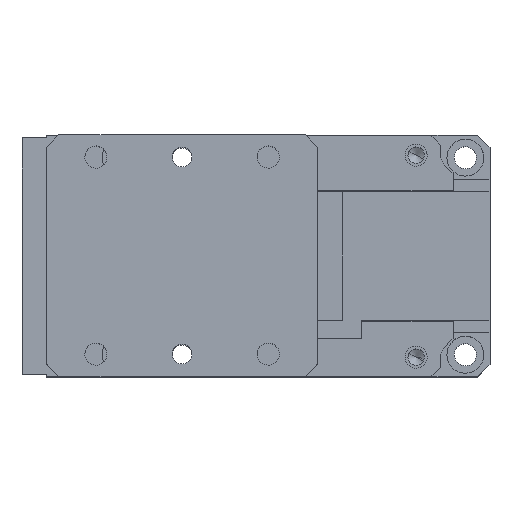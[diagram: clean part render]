
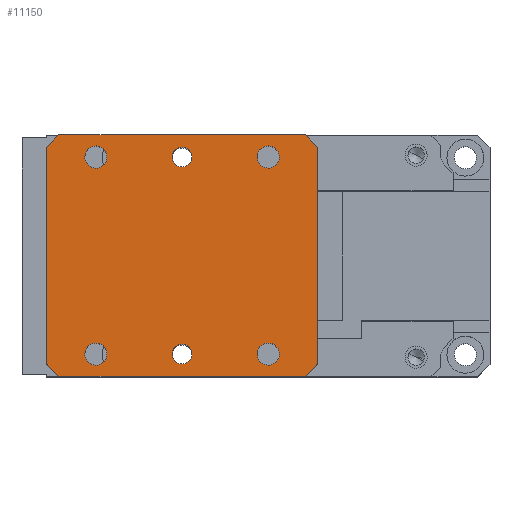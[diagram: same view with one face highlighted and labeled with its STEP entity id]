
A CAD part, top view. The second image highlights one B-rep face of the part: STEP entity #11150.
In plain terms, the highlighted planar face has unit normal (0, 0, 1).
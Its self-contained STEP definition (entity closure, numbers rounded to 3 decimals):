
#10564=CARTESIAN_POINT('Vertex',(5.,49.,200.)) ;
#10567=CARTESIAN_POINT('Line Origine',(55.,49.,200.)) ;
#10571=CARTESIAN_POINT('Vertex',(105.,49.,200.)) ;
#10687=CARTESIAN_POINT('Vertex',(0.,44.,200.)) ;
#10690=CARTESIAN_POINT('Line Origine',(0.,44.,200.)) ;
#10830=CARTESIAN_POINT('Vertex',(105.,-49.,200.)) ;
#10835=CARTESIAN_POINT('Line Origine',(55.,-49.,200.)) ;
#10839=CARTESIAN_POINT('Vertex',(5.,-49.,200.)) ;
#10953=CARTESIAN_POINT('Line Origine',(0.,-44.,200.)) ;
#10957=CARTESIAN_POINT('Vertex',(0.,-44.,200.)) ;
#11003=CARTESIAN_POINT('Axis2P3D Location',(150.006,0.,200.)) ;
#11008=CARTESIAN_POINT('Line Origine',(107.5,-46.5,200.)) ;
#11012=CARTESIAN_POINT('Vertex',(110.,-44.,200.)) ;
#11015=CARTESIAN_POINT('Line Origine',(110.,0.,200.)) ;
#11019=CARTESIAN_POINT('Vertex',(110.,44.,200.)) ;
#11022=CARTESIAN_POINT('Line Origine',(107.5,46.5,200.)) ;
#11027=CARTESIAN_POINT('Line Origine',(0.,0.,200.)) ;
#11042=CARTESIAN_POINT('Axis2P3D Location',(20.,-40.,200.)) ;
#11046=CARTESIAN_POINT('Vertex',(17.843,-36.051,200.)) ;
#11048=CARTESIAN_POINT('Vertex',(22.157,-43.949,200.)) ;
#11051=CARTESIAN_POINT('Axis2P3D Location',(20.,-40.,200.)) ;
#11060=CARTESIAN_POINT('Axis2P3D Location',(90.,-40.,200.)) ;
#11064=CARTESIAN_POINT('Vertex',(87.843,-36.051,200.)) ;
#11066=CARTESIAN_POINT('Vertex',(92.157,-43.949,200.)) ;
#11069=CARTESIAN_POINT('Axis2P3D Location',(90.,-40.,200.)) ;
#11078=CARTESIAN_POINT('Axis2P3D Location',(90.,40.,200.)) ;
#11082=CARTESIAN_POINT('Vertex',(87.843,43.949,200.)) ;
#11084=CARTESIAN_POINT('Vertex',(92.157,36.051,200.)) ;
#11087=CARTESIAN_POINT('Axis2P3D Location',(90.,40.,200.)) ;
#11096=CARTESIAN_POINT('Axis2P3D Location',(20.,40.,200.)) ;
#11100=CARTESIAN_POINT('Vertex',(17.843,43.949,200.)) ;
#11102=CARTESIAN_POINT('Vertex',(22.157,36.051,200.)) ;
#11105=CARTESIAN_POINT('Axis2P3D Location',(20.,40.,200.)) ;
#11114=CARTESIAN_POINT('Axis2P3D Location',(55.,-40.,200.)) ;
#11118=CARTESIAN_POINT('Vertex',(53.082,-36.49,200.)) ;
#11120=CARTESIAN_POINT('Vertex',(56.918,-43.51,200.)) ;
#11123=CARTESIAN_POINT('Axis2P3D Location',(55.,-40.,200.)) ;
#11132=CARTESIAN_POINT('Axis2P3D Location',(55.,40.,200.)) ;
#11136=CARTESIAN_POINT('Vertex',(53.082,43.51,200.)) ;
#11138=CARTESIAN_POINT('Vertex',(56.918,36.49,200.)) ;
#11141=CARTESIAN_POINT('Axis2P3D Location',(55.,40.,200.)) ;
#10569=VECTOR('Line Direction',#10568,1.) ;
#10692=VECTOR('Line Direction',#10691,1.) ;
#10837=VECTOR('Line Direction',#10836,1.) ;
#10955=VECTOR('Line Direction',#10954,1.) ;
#11010=VECTOR('Line Direction',#11009,1.) ;
#11017=VECTOR('Line Direction',#11016,1.) ;
#11024=VECTOR('Line Direction',#11023,1.) ;
#11029=VECTOR('Line Direction',#11028,1.) ;
#10568=DIRECTION('Vector Direction',(-1.,0.,0.)) ;
#10691=DIRECTION('Vector Direction',(0.707,0.707,0.)) ;
#10836=DIRECTION('Vector Direction',(-1.,0.,0.)) ;
#10954=DIRECTION('Vector Direction',(0.707,-0.707,0.)) ;
#11004=DIRECTION('Axis2P3D Direction',(0.,0.,1.)) ;
#11005=DIRECTION('Axis2P3D XDirection',(-1.,0.,0.)) ;
#11009=DIRECTION('Vector Direction',(-0.707,-0.707,0.)) ;
#11016=DIRECTION('Vector Direction',(0.,1.,0.)) ;
#11023=DIRECTION('Vector Direction',(-0.707,0.707,0.)) ;
#11028=DIRECTION('Vector Direction',(0.,-1.,0.)) ;
#11043=DIRECTION('Axis2P3D Direction',(0.,0.,1.)) ;
#11052=DIRECTION('Axis2P3D Direction',(0.,0.,1.)) ;
#11061=DIRECTION('Axis2P3D Direction',(0.,0.,1.)) ;
#11070=DIRECTION('Axis2P3D Direction',(0.,0.,1.)) ;
#11079=DIRECTION('Axis2P3D Direction',(0.,0.,1.)) ;
#11088=DIRECTION('Axis2P3D Direction',(0.,0.,1.)) ;
#11097=DIRECTION('Axis2P3D Direction',(0.,0.,1.)) ;
#11106=DIRECTION('Axis2P3D Direction',(0.,0.,1.)) ;
#11115=DIRECTION('Axis2P3D Direction',(0.,0.,1.)) ;
#11124=DIRECTION('Axis2P3D Direction',(0.,0.,1.)) ;
#11133=DIRECTION('Axis2P3D Direction',(0.,0.,1.)) ;
#11142=DIRECTION('Axis2P3D Direction',(0.,0.,1.)) ;
#11006=AXIS2_PLACEMENT_3D('Plane Axis2P3D',#11003,#11004,#11005) ;
#11044=AXIS2_PLACEMENT_3D('Circle Axis2P3D',#11042,#11043,$) ;
#11053=AXIS2_PLACEMENT_3D('Circle Axis2P3D',#11051,#11052,$) ;
#11062=AXIS2_PLACEMENT_3D('Circle Axis2P3D',#11060,#11061,$) ;
#11071=AXIS2_PLACEMENT_3D('Circle Axis2P3D',#11069,#11070,$) ;
#11080=AXIS2_PLACEMENT_3D('Circle Axis2P3D',#11078,#11079,$) ;
#11089=AXIS2_PLACEMENT_3D('Circle Axis2P3D',#11087,#11088,$) ;
#11098=AXIS2_PLACEMENT_3D('Circle Axis2P3D',#11096,#11097,$) ;
#11107=AXIS2_PLACEMENT_3D('Circle Axis2P3D',#11105,#11106,$) ;
#11116=AXIS2_PLACEMENT_3D('Circle Axis2P3D',#11114,#11115,$) ;
#11125=AXIS2_PLACEMENT_3D('Circle Axis2P3D',#11123,#11124,$) ;
#11134=AXIS2_PLACEMENT_3D('Circle Axis2P3D',#11132,#11133,$) ;
#11143=AXIS2_PLACEMENT_3D('Circle Axis2P3D',#11141,#11142,$) ;
#10570=LINE('Line',#10567,#10569) ;
#10693=LINE('Line',#10690,#10692) ;
#10838=LINE('Line',#10835,#10837) ;
#10956=LINE('Line',#10953,#10955) ;
#11011=LINE('Line',#11008,#11010) ;
#11018=LINE('Line',#11015,#11017) ;
#11025=LINE('Line',#11022,#11024) ;
#11030=LINE('Line',#11027,#11029) ;
#11045=CIRCLE('generated circle',#11044,4.5) ;
#11054=CIRCLE('generated circle',#11053,4.5) ;
#11063=CIRCLE('generated circle',#11062,4.5) ;
#11072=CIRCLE('generated circle',#11071,4.5) ;
#11081=CIRCLE('generated circle',#11080,4.5) ;
#11090=CIRCLE('generated circle',#11089,4.5) ;
#11099=CIRCLE('generated circle',#11098,4.5) ;
#11108=CIRCLE('generated circle',#11107,4.5) ;
#11117=CIRCLE('generated circle',#11116,4.) ;
#11126=CIRCLE('generated circle',#11125,4.) ;
#11135=CIRCLE('generated circle',#11134,4.) ;
#11144=CIRCLE('generated circle',#11143,4.) ;
#11007=PLANE('',#11006) ;
#11059=FACE_BOUND('',#11056,.T.) ;
#11077=FACE_BOUND('',#11074,.T.) ;
#11095=FACE_BOUND('',#11092,.T.) ;
#11113=FACE_BOUND('',#11110,.T.) ;
#11131=FACE_BOUND('',#11128,.T.) ;
#11149=FACE_BOUND('',#11146,.T.) ;
#10573=EDGE_CURVE('',#10572,#10565,#10570,.T.) ;
#10694=EDGE_CURVE('',#10688,#10565,#10693,.T.) ;
#10841=EDGE_CURVE('',#10831,#10840,#10838,.T.) ;
#10959=EDGE_CURVE('',#10958,#10840,#10956,.T.) ;
#11014=EDGE_CURVE('',#11013,#10831,#11011,.T.) ;
#11021=EDGE_CURVE('',#11020,#11013,#11018,.F.) ;
#11026=EDGE_CURVE('',#11020,#10572,#11025,.T.) ;
#11031=EDGE_CURVE('',#10958,#10688,#11030,.F.) ;
#11050=EDGE_CURVE('',#11047,#11049,#11045,.T.) ;
#11055=EDGE_CURVE('',#11049,#11047,#11054,.T.) ;
#11068=EDGE_CURVE('',#11065,#11067,#11063,.T.) ;
#11073=EDGE_CURVE('',#11067,#11065,#11072,.T.) ;
#11086=EDGE_CURVE('',#11083,#11085,#11081,.T.) ;
#11091=EDGE_CURVE('',#11085,#11083,#11090,.T.) ;
#11104=EDGE_CURVE('',#11101,#11103,#11099,.T.) ;
#11109=EDGE_CURVE('',#11103,#11101,#11108,.T.) ;
#11122=EDGE_CURVE('',#11119,#11121,#11117,.T.) ;
#11127=EDGE_CURVE('',#11121,#11119,#11126,.T.) ;
#11140=EDGE_CURVE('',#11137,#11139,#11135,.T.) ;
#11145=EDGE_CURVE('',#11139,#11137,#11144,.T.) ;
#11032=EDGE_LOOP('',(#11033,#11034,#11035,#11036,#11037,#11038,#11039,#11040)) ;
#11056=EDGE_LOOP('',(#11057,#11058)) ;
#11074=EDGE_LOOP('',(#11075,#11076)) ;
#11092=EDGE_LOOP('',(#11093,#11094)) ;
#11110=EDGE_LOOP('',(#11111,#11112)) ;
#11128=EDGE_LOOP('',(#11129,#11130)) ;
#11146=EDGE_LOOP('',(#11147,#11148)) ;
#11033=ORIENTED_EDGE('',*,*,#10959,.T.) ;
#11034=ORIENTED_EDGE('',*,*,#10841,.F.) ;
#11035=ORIENTED_EDGE('',*,*,#11014,.F.) ;
#11036=ORIENTED_EDGE('',*,*,#11021,.F.) ;
#11037=ORIENTED_EDGE('',*,*,#11026,.T.) ;
#11038=ORIENTED_EDGE('',*,*,#10573,.T.) ;
#11039=ORIENTED_EDGE('',*,*,#10694,.F.) ;
#11040=ORIENTED_EDGE('',*,*,#11031,.F.) ;
#11057=ORIENTED_EDGE('',*,*,#11050,.F.) ;
#11058=ORIENTED_EDGE('',*,*,#11055,.F.) ;
#11075=ORIENTED_EDGE('',*,*,#11068,.F.) ;
#11076=ORIENTED_EDGE('',*,*,#11073,.F.) ;
#11093=ORIENTED_EDGE('',*,*,#11086,.F.) ;
#11094=ORIENTED_EDGE('',*,*,#11091,.F.) ;
#11111=ORIENTED_EDGE('',*,*,#11104,.F.) ;
#11112=ORIENTED_EDGE('',*,*,#11109,.F.) ;
#11129=ORIENTED_EDGE('',*,*,#11122,.F.) ;
#11130=ORIENTED_EDGE('',*,*,#11127,.F.) ;
#11147=ORIENTED_EDGE('',*,*,#11140,.F.) ;
#11148=ORIENTED_EDGE('',*,*,#11145,.F.) ;
#10565=VERTEX_POINT('',#10564) ;
#10572=VERTEX_POINT('',#10571) ;
#10688=VERTEX_POINT('',#10687) ;
#10831=VERTEX_POINT('',#10830) ;
#10840=VERTEX_POINT('',#10839) ;
#10958=VERTEX_POINT('',#10957) ;
#11013=VERTEX_POINT('',#11012) ;
#11020=VERTEX_POINT('',#11019) ;
#11047=VERTEX_POINT('',#11046) ;
#11049=VERTEX_POINT('',#11048) ;
#11065=VERTEX_POINT('',#11064) ;
#11067=VERTEX_POINT('',#11066) ;
#11083=VERTEX_POINT('',#11082) ;
#11085=VERTEX_POINT('',#11084) ;
#11101=VERTEX_POINT('',#11100) ;
#11103=VERTEX_POINT('',#11102) ;
#11119=VERTEX_POINT('',#11118) ;
#11121=VERTEX_POINT('',#11120) ;
#11137=VERTEX_POINT('',#11136) ;
#11139=VERTEX_POINT('',#11138) ;
#11150=ADVANCED_FACE('opened position',(#11041,#11059,#11077,#11095,#11113,#11131,#11149),#11007,.T.) ;
#11041=FACE_OUTER_BOUND('',#11032,.T.) ;
